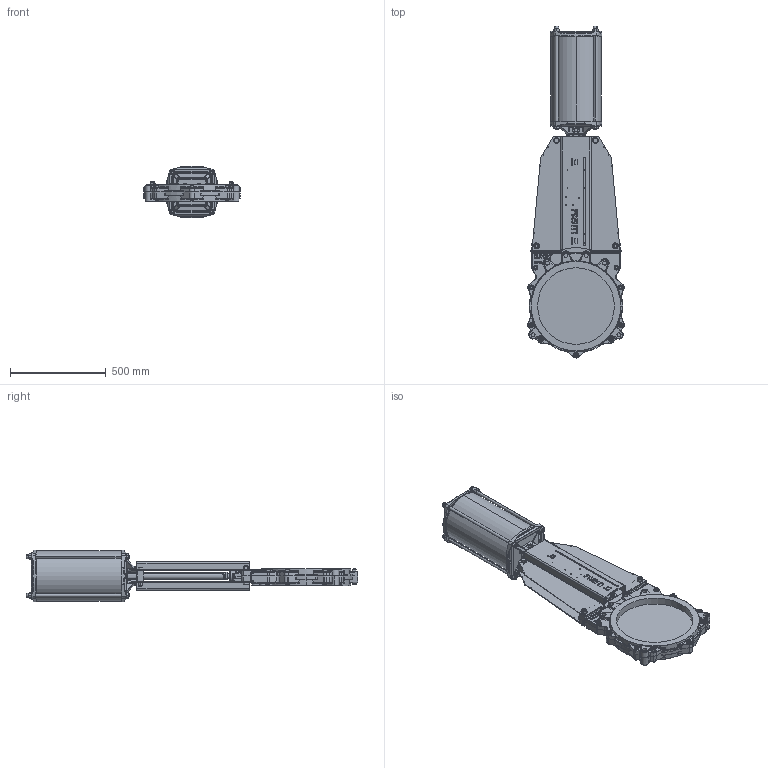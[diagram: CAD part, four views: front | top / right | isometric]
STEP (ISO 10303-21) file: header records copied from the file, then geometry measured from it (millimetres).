
FILE_DESCRIPTION (( 'STEP AP214' ), '1' );
FILE_NAME ('VSC DN 0400.STEP', '2015-09-23T11:15:00', ( 'admin' ), ( 'Hewlett-Packard Company' ), 'SwSTEP 2.0', 'SolidWorks 2013', '' );
FILE_SCHEMA (( 'AUTOMOTIVE_DESIGN' ));
Length unit declared in the file: millimetre
Products named in the file (1): VSC DN 0400
Bounding box: 504 x 1732.5 x 270 mm (x, y, z)
Volume: 19901476.4 mm3; surface area: 3435464.6 mm2
Topology: 87 solids, 91 shells, 4187 faces, 9961 edges, 5866 vertices
Faces by surface type: plane 1268, cylinder 1132, cone 786, bspline 695, torus 230, sphere 76
Entity records: 192542 total; most frequent: CARTESIAN_POINT 54960, ORIENTED_EDGE 19522, DIRECTION 18080, EDGE_CURVE 9761, AXIS2_PLACEMENT_3D 7267, VERTEX_POINT 5858, EDGE_LOOP 4565, UNCERTAINTY_MEASURE_WITH_UNIT 4274
